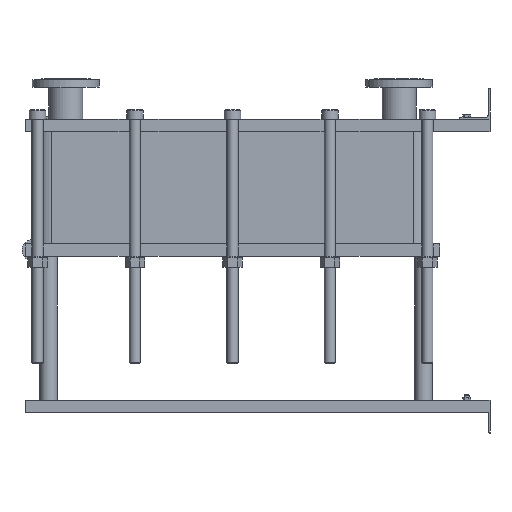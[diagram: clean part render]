
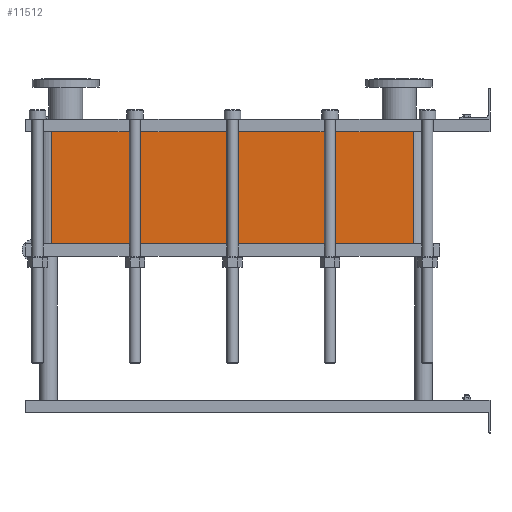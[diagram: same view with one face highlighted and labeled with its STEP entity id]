
A CAD part, left-side view. The second image highlights one B-rep face of the part: STEP entity #11512.
In plain terms, the highlighted planar face has unit normal (-1, 0, 0).
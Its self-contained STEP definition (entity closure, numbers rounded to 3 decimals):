
#1129=LINE('',#23232,#2102);
#1130=LINE('',#23236,#2103);
#1131=LINE('',#23238,#2104);
#1132=LINE('',#23239,#2105);
#2102=VECTOR('',#15887,10.);
#2103=VECTOR('',#15892,10.);
#2104=VECTOR('',#15893,10.);
#2105=VECTOR('',#15894,10.);
#3267=FACE_OUTER_BOUND('',#4093,.T.);
#4093=EDGE_LOOP('',(#10103,#10104,#10105,#10106));
#5642=VERTEX_POINT('',#23229);
#5643=VERTEX_POINT('',#23231);
#5644=VERTEX_POINT('',#23235);
#5645=VERTEX_POINT('',#23237);
#7159=EDGE_CURVE('',#5643,#5642,#1129,.T.);
#7161=EDGE_CURVE('',#5642,#5644,#1130,.T.);
#7162=EDGE_CURVE('',#5645,#5644,#1131,.T.);
#7163=EDGE_CURVE('',#5645,#5643,#1132,.T.);
#10103=ORIENTED_EDGE('',*,*,#7161,.T.);
#10104=ORIENTED_EDGE('',*,*,#7162,.F.);
#10105=ORIENTED_EDGE('',*,*,#7163,.T.);
#10106=ORIENTED_EDGE('',*,*,#7159,.T.);
#10857=PLANE('',#12751);
#11512=ADVANCED_FACE('',(#3267),#10857,.T.);
#12751=AXIS2_PLACEMENT_3D('',#23234,#15890,#15891);
#15887=DIRECTION('',(0.,0.,-1.));
#15890=DIRECTION('center_axis',(-1.,0.,0.));
#15891=DIRECTION('ref_axis',(0.,1.,0.));
#15892=DIRECTION('',(0.,-1.,0.));
#15893=DIRECTION('',(0.,0.,-1.));
#15894=DIRECTION('',(0.,1.,0.));
#23229=CARTESIAN_POINT('',(-200.,1414.,-362.25));
#23231=CARTESIAN_POINT('',(-200.,1414.,0.));
#23232=CARTESIAN_POINT('',(-200.,1414.,0.));
#23234=CARTESIAN_POINT('Origin',(-200.,248.,0.));
#23235=CARTESIAN_POINT('',(-200.,248.,-362.25));
#23236=CARTESIAN_POINT('',(-200.,539.5,-362.25));
#23237=CARTESIAN_POINT('',(-200.,248.,0.));
#23238=CARTESIAN_POINT('',(-200.,248.,0.));
#23239=CARTESIAN_POINT('',(-200.,248.,0.));
